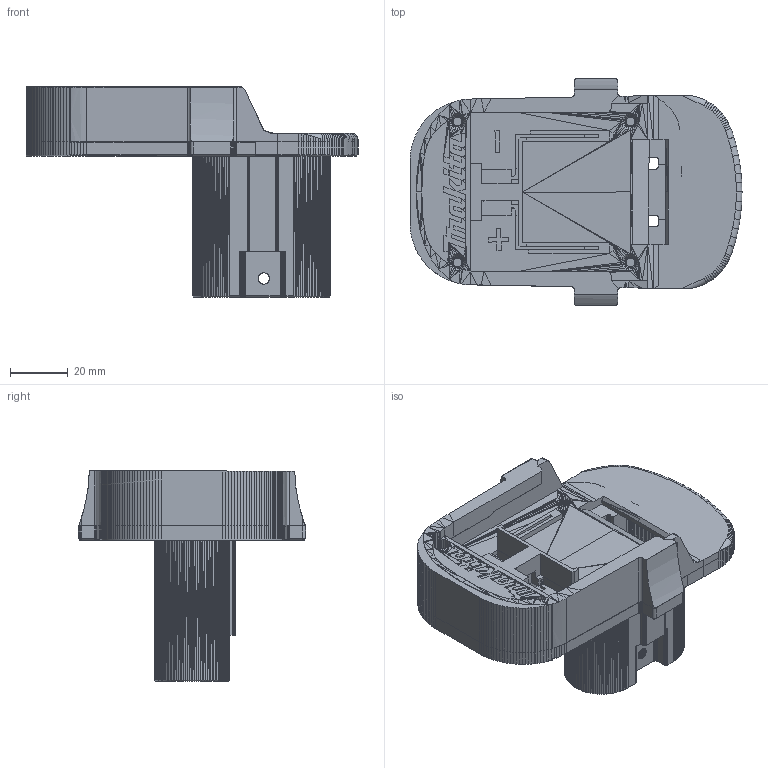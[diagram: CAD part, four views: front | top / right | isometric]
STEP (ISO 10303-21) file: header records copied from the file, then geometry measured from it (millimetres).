
FILE_DESCRIPTION(/* description */ (''),/* implementation_level */ '2;1');
FILE_NAME(/* name */ 'Batt-MAKITA_to_Tool-FERM.step',/* time_stamp */ '2025-11-09T19:28:11+01:00',/* author */ (''),/* organization */ (''),/* preprocessor_version */ 'ST-DEVELOPER v20.1',/* originating_system */ 'Autodesk Translation Framework v14.21.0.0',/* authorisation */ '');
FILE_SCHEMA (('AUTOMOTIVE_DESIGN { 1 0 10303 214 3 1 1 }'));
Products named in the file (5): Batt-MAKITA_to_Tool-FERM; part_object_id_1; FERM; makita-diy v4; MAKITA
Assembly tree (4 placements, depth 3):
  Batt-MAKITA_to_Tool-FERM
    part_object_id_1
      FERM
    makita-diy v4
      MAKITA
Bounding box: 115.2 x 78.8 x 73.02 mm (x, y, z)
Volume: 106979.7 mm3; surface area: 53493.9 mm2
Topology: 2 solids, 2 shells, 6739 faces, 13368 edges, 6629 vertices
Faces by surface type: plane 6652, cylinder 85, sphere 2
Entity records: 161225 total; most frequent: DIRECTION 27114, CARTESIAN_POINT 26819, ORIENTED_EDGE 26736, EDGE_CURVE 13368, LINE 13090, VECTOR 13090, AXIS2_PLACEMENT_3D 7012, EDGE_LOOP 6759
